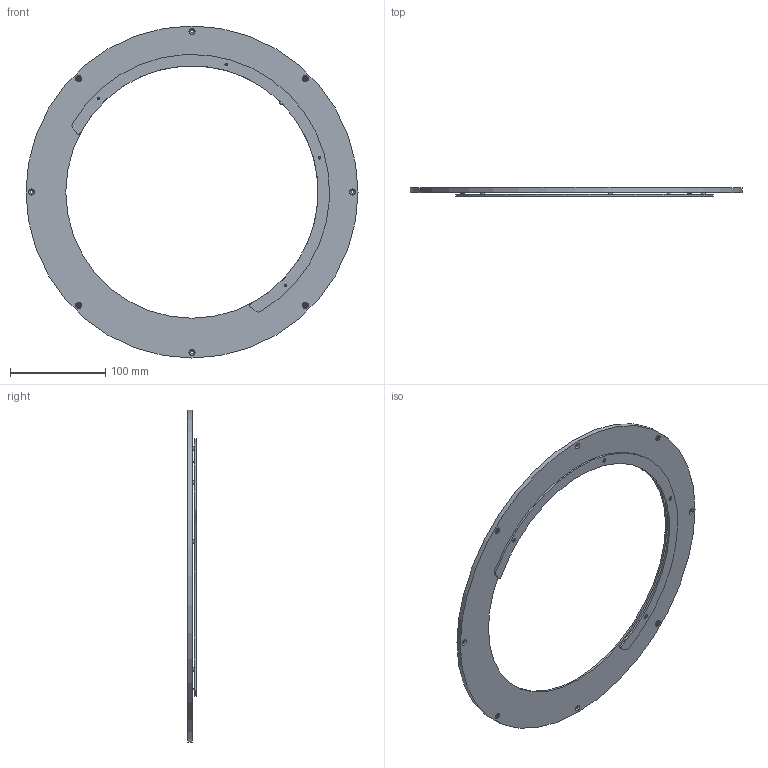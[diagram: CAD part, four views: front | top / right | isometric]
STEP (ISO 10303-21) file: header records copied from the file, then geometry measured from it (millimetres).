
FILE_DESCRIPTION(/* description */ ('Unknown'),/* implementation_level */ '2;1');
FILE_NAME(/* name */ 'Optical Demo Set -XL',/* time_stamp */ '2022-08-22T10:32:50+02:00',/* author */ ('Unknown'),/* organization */ ('Unknown'),/* preprocessor_version */ 'ST-DEVELOPER v18.102',/* originating_system */ 'Solid Edge',/* authorisation */ 'Unknown');
FILE_SCHEMA (('AUTOMOTIVE_DESIGN {1 0 10303 214 3 1 1}'));
Length unit declared in the file: millimetre
Products named in the file (1): 99017611 Optical Demo Set -XL
Bounding box: 348.6 x 9 x 348.6 mm (x, y, z)
Volume: 128729.4 mm3; surface area: 106395.4 mm2
Topology: 5 solids, 9 shells, 206 faces, 481 edges, 324 vertices
Faces by surface type: plane 99, cylinder 63, cone 32, torus 8, sphere 4
Full cylindrical faces by diameter (mm): 2.459 x4, 3 x4, 3.135 x4, 3.2 x4, 3.4 x8, 3.5 x12, 4.2 x4, 4.3 x4, 5.3 x4, 5.5 x4, 265 x1, 326 x1, 348.6 x1
Entity records: 6236 total; most frequent: DIRECTION 904, CARTESIAN_POINT 797, ORIENTED_EDGE 648, AXIS2_PLACEMENT_3D 373, EDGE_LOOP 368, FACE_BOUND 368, EDGE_CURVE 324, VERTEX_POINT 266
